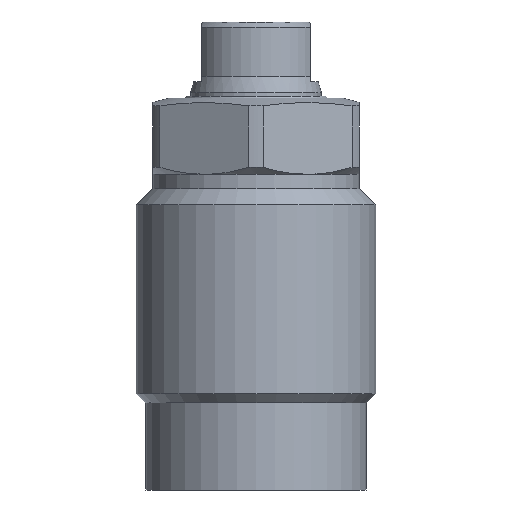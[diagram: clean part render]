
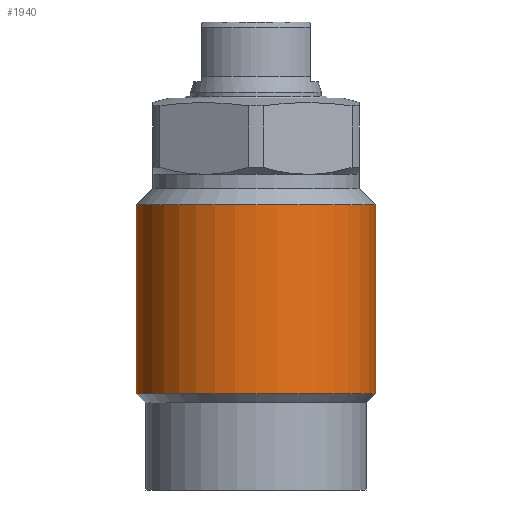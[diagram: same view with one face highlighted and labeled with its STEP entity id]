
A CAD part, front view. The second image highlights one B-rep face of the part: STEP entity #1940.
In plain terms, the highlighted cylindrical face has radius 11 mm (diameter 22 mm), a partial arc.
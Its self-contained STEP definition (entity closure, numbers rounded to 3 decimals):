
#1877=CARTESIAN_POINT('',(-11.0,0.0,-27.15));
#1878=VERTEX_POINT('',#1877);
#1886=CARTESIAN_POINT('',(11.0,0.0,-27.15));
#1887=VERTEX_POINT('',#1886);
#1894=CARTESIAN_POINT('',(0.0,0.0,-27.15));
#1895=DIRECTION('',(0.0,0.0,1.0));
#1896=DIRECTION('',(1.0,0.0,0.0));
#1897=AXIS2_PLACEMENT_3D('',#1894,#1895,#1896);
#1898=CIRCLE('',#1897,11.0);
#1899=EDGE_CURVE('no 2680',#1878,#1887,#1898,.T.);
#1909=CARTESIAN_POINT('',(-11.,0.0,-9.8));
#1910=VERTEX_POINT('',#1909);
#1911=CARTESIAN_POINT('',(-11.,-0.0,-27.15));
#1912=DIRECTION('',(0.,-0.0,1.0));
#1913=VECTOR('',#1912,1.0);
#1914=LINE('',#1911,#1913);
#1915=EDGE_CURVE('no 2690',#1878,#1910,#1914,.T.);
#1916=ORIENTED_EDGE('',*,*,#1915,.F.);
#1917=ORIENTED_EDGE('',*,*,#1899,.T.);
#1918=CARTESIAN_POINT('',(11.,0.0,-9.8));
#1919=VERTEX_POINT('',#1918);
#1920=CARTESIAN_POINT('',(11.,0.0,-27.15));
#1921=DIRECTION('',(0.,0.0,1.0));
#1922=VECTOR('',#1921,1.0);
#1923=LINE('',#1920,#1922);
#1924=EDGE_CURVE('no 2698',#1887,#1919,#1923,.T.);
#1925=ORIENTED_EDGE('',*,*,#1924,.T.);
#1926=CARTESIAN_POINT('',(0.0,0.0,-9.8));
#1927=DIRECTION('',(0.0,0.0,1.0));
#1928=DIRECTION('',(1.0,0.0,0.0));
#1929=AXIS2_PLACEMENT_3D('',#1926,#1927,#1928);
#1930=CIRCLE('',#1929,11.);
#1931=EDGE_CURVE('no 2702',#1910,#1919,#1930,.T.);
#1932=ORIENTED_EDGE('',*,*,#1931,.F.);
#1933=EDGE_LOOP('',(#1916,#1917,#1925,#1932));
#1934=FACE_OUTER_BOUND('',#1933,.T.);
#1935=CARTESIAN_POINT('',(0.0,0.0,3.426));
#1936=DIRECTION('',(0.0,0.0,1.0));
#1937=DIRECTION('',(-0.0,1.0,0.0));
#1938=AXIS2_PLACEMENT_3D('',#1935,#1936,#1937);
#1939=CYLINDRICAL_SURFACE('',#1938,11.);
#1940=ADVANCED_FACE('no 2683',(#1934),#1939,.T.);
